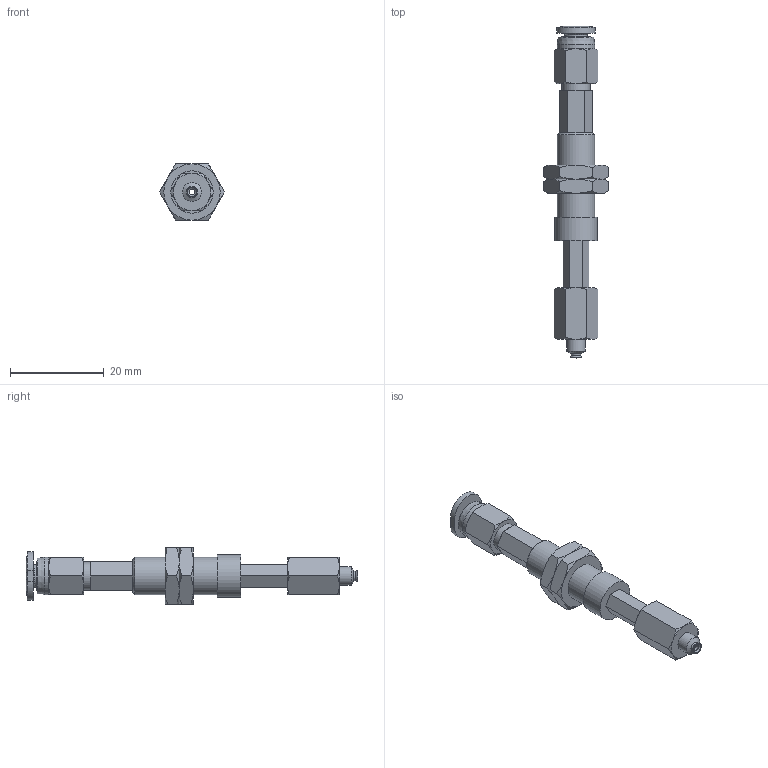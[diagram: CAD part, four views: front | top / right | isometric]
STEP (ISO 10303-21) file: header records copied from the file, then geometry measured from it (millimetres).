
FILE_DESCRIPTION(('STEP AP203'),'1');
FILE_NAME('-O.stp','2025-08-27T02:35:05',(' '),(' '),'Spatial InterOp 3D',' ',' ');
FILE_SCHEMA(('CONFIG_CONTROL_DESIGN'));
Length unit declared in the file: millimetre
Products named in the file (7): BNABPFTH-2A-10-※-O; ADAPTER; NAPFTH-2A-10-MBODY; Nut-2A-10-h; NAPFTH-2A-10-FBODY; BPFG-2A-※; PC-C_04-M3
Assembly tree (7 placements, depth 2):
  BNABPFTH-2A-10-※-O
    ADAPTER
    NAPFTH-2A-10-MBODY
    Nut-2A-10-h  x2
    NAPFTH-2A-10-FBODY
    BPFG-2A-※
    PC-C_04-M3
Bounding box: 13.86 x 70.77 x 12 mm (x, y, z)
Volume: 2758.4 mm3; surface area: 4022 mm2
Topology: 6 solids, 8 shells, 172 faces, 361 edges, 218 vertices
Faces by surface type: plane 71, cone 62, cylinder 22, torus 9, bspline 5, revolution 3
Full cylindrical faces by diameter (mm): 1.2 x3, 2 x2, 2.459 x1, 2.5 x2, 3 x3, 4 x1, 4.9 x1, 6 x1, 6.1 x1, 7.188 x2, 8 x2, 9 x1
Entity records: 4429 total; most frequent: CARTESIAN_POINT 1214, DIRECTION 589, ORIENTED_EDGE 522, EDGE_CURVE 262, AXIS2_PLACEMENT_3D 251, EDGE_LOOP 216, VERTEX_POINT 182, FACE_OUTER_BOUND 118
